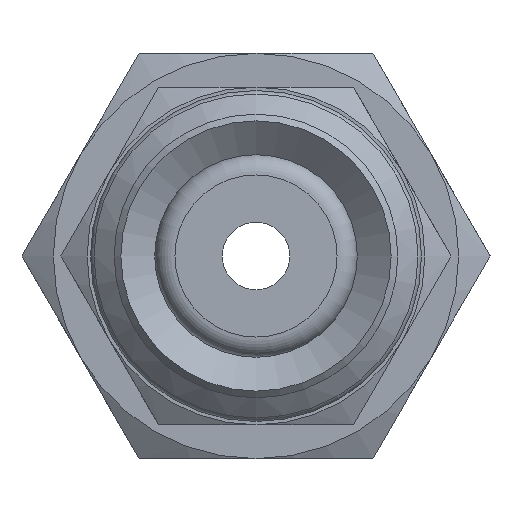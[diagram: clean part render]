
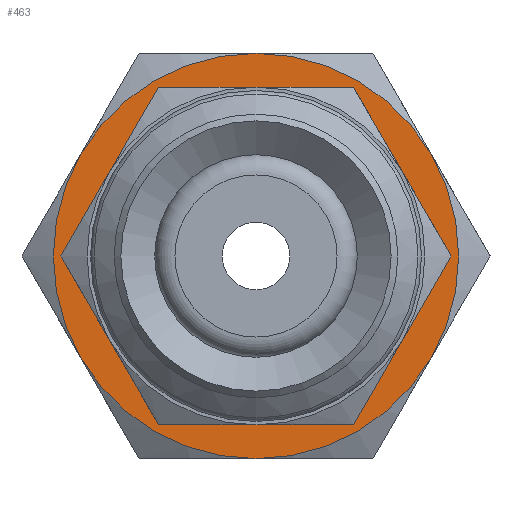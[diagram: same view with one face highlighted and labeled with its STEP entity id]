
A CAD part, front view. The second image highlights one B-rep face of the part: STEP entity #463.
In plain terms, the highlighted planar face has unit normal (0, -1, 0) as drawn and (-1, 0, 0) by its records, which use the part's own axes.
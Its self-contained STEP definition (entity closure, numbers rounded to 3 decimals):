
#463=ADVANCED_FACE('',(#650,#651),#652,.F.);
#650=FACE_BOUND('',#890,.T.);
#651=FACE_OUTER_BOUND('',#891,.T.);
#652=PLANE('',#892);
#890=EDGE_LOOP('',(#1430));
#891=EDGE_LOOP('',(#1431,#1432,#1433,#1434,#1435,#1436));
#892=AXIS2_PLACEMENT_3D('',#1437,#1438,#1439);
#1430=ORIENTED_EDGE('',*,*,#1745,.T.);
#1431=ORIENTED_EDGE('',*,*,#1720,.F.);
#1432=ORIENTED_EDGE('',*,*,#1721,.F.);
#1433=ORIENTED_EDGE('',*,*,#1746,.F.);
#1434=ORIENTED_EDGE('',*,*,#1703,.F.);
#1435=ORIENTED_EDGE('',*,*,#1748,.F.);
#1436=ORIENTED_EDGE('',*,*,#1747,.F.);
#1437=CARTESIAN_POINT('',(0.,0.0,0.0));
#1438=DIRECTION('',(1.0,0.0,0.0));
#1439=DIRECTION('',(0.0,1.0,0.0));
#1703=EDGE_CURVE('',#1938,#1939,#1940,.T.);
#1720=EDGE_CURVE('',#1968,#1965,#1970,.T.);
#1721=EDGE_CURVE('',#1971,#1968,#1972,.T.);
#1745=EDGE_CURVE('',#2007,#2007,#2008,.T.);
#1746=EDGE_CURVE('',#1939,#1971,#2009,.T.);
#1747=EDGE_CURVE('',#1965,#1980,#2010,.T.);
#1748=EDGE_CURVE('',#1980,#1938,#2011,.T.);
#1938=VERTEX_POINT('',#2316);
#1939=VERTEX_POINT('',#2317);
#1940=CIRCLE('',#2318,6.0);
#1965=VERTEX_POINT('',#2427);
#1968=VERTEX_POINT('',#2450);
#1970=CIRCLE('',#2462,6.0);
#1971=VERTEX_POINT('',#2463);
#1972=CIRCLE('',#2464,6.0);
#1980=VERTEX_POINT('',#2503);
#2007=VERTEX_POINT('',#2631);
#2008=CIRCLE('',#2632,4.0);
#2009=CIRCLE('',#2633,6.0);
#2010=CIRCLE('',#2634,6.0);
#2011=CIRCLE('',#2635,6.0);
#2316=CARTESIAN_POINT('',(0.,-5.196,3.0));
#2317=CARTESIAN_POINT('',(0.,-5.196,-3.0));
#2318=AXIS2_PLACEMENT_3D('',#2853,#2854,#2855);
#2427=CARTESIAN_POINT('',(0.,5.196,3.0));
#2450=CARTESIAN_POINT('',(0.,5.196,-3.0));
#2462=AXIS2_PLACEMENT_3D('',#2863,#2864,#2865);
#2463=CARTESIAN_POINT('',(0.,0.0,-6.0));
#2464=AXIS2_PLACEMENT_3D('',#2866,#2867,#2868);
#2503=CARTESIAN_POINT('',(0.,0.0,6.0));
#2631=CARTESIAN_POINT('',(0.,0.0,-4.0));
#2632=AXIS2_PLACEMENT_3D('',#2895,#2896,#2897);
#2633=AXIS2_PLACEMENT_3D('',#2898,#2899,#2900);
#2634=AXIS2_PLACEMENT_3D('',#2901,#2902,#2903);
#2635=AXIS2_PLACEMENT_3D('',#2904,#2905,#2906);
#2853=CARTESIAN_POINT('',(0.,0.0,0.0));
#2854=DIRECTION('',(1.0,0.0,0.0));
#2855=DIRECTION('',(0.0,0.0,-1.0));
#2863=CARTESIAN_POINT('',(0.,0.0,0.0));
#2864=DIRECTION('',(1.0,0.0,0.0));
#2865=DIRECTION('',(0.0,0.0,-1.0));
#2866=CARTESIAN_POINT('',(0.,0.0,0.0));
#2867=DIRECTION('',(1.0,0.0,0.0));
#2868=DIRECTION('',(0.0,0.0,-1.0));
#2895=CARTESIAN_POINT('',(0.,0.0,0.0));
#2896=DIRECTION('',(1.0,0.0,0.0));
#2897=DIRECTION('',(0.0,0.0,-1.0));
#2898=CARTESIAN_POINT('',(0.,0.0,0.0));
#2899=DIRECTION('',(1.0,0.0,0.0));
#2900=DIRECTION('',(0.0,0.0,-1.0));
#2901=CARTESIAN_POINT('',(0.,0.0,0.0));
#2902=DIRECTION('',(1.0,0.0,0.0));
#2903=DIRECTION('',(0.0,0.0,-1.0));
#2904=CARTESIAN_POINT('',(0.,0.0,0.0));
#2905=DIRECTION('',(1.0,0.0,0.0));
#2906=DIRECTION('',(0.0,0.0,-1.0));
